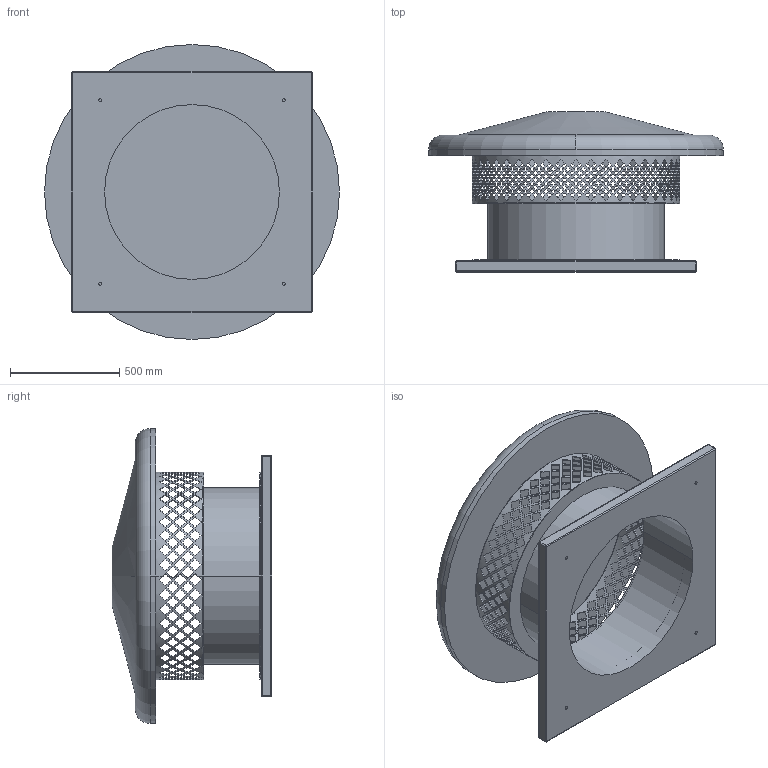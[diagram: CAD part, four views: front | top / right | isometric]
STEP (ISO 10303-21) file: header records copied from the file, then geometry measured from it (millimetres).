
FILE_DESCRIPTION(('STEP AP214'),'1');
FILE_NAME('fan_5113461700.stp','2017-03-31T12:39:55',('TraceParts'),('TraceParts S.A.'),'Spatial InterOp 3D',' ',' ');
FILE_SCHEMA(('automotive_design'));
Length unit declared in the file: millimetre
Products named in the file (1): fan_5113461700
Bounding box: 1350 x 732 x 1350 mm (x, y, z)
Volume: 213917506.7 mm3; surface area: 7356970.2 mm2
Topology: 1 solids, 1 shells, 919 faces, 2776 edges, 1838 vertices
Faces by surface type: plane 873, cylinder 32, sphere 8, torus 4, cone 2
Entity records: 40472 total; most frequent: DIRECTION 6450, ORIENTED_EDGE 5536, CARTESIAN_POINT 5526, EDGE_CURVE 2768, AXIS2_PLACEMENT_3D 2762, VERTEX_POINT 1838, ELLIPSE 1760, EDGE_LOOP 1344
